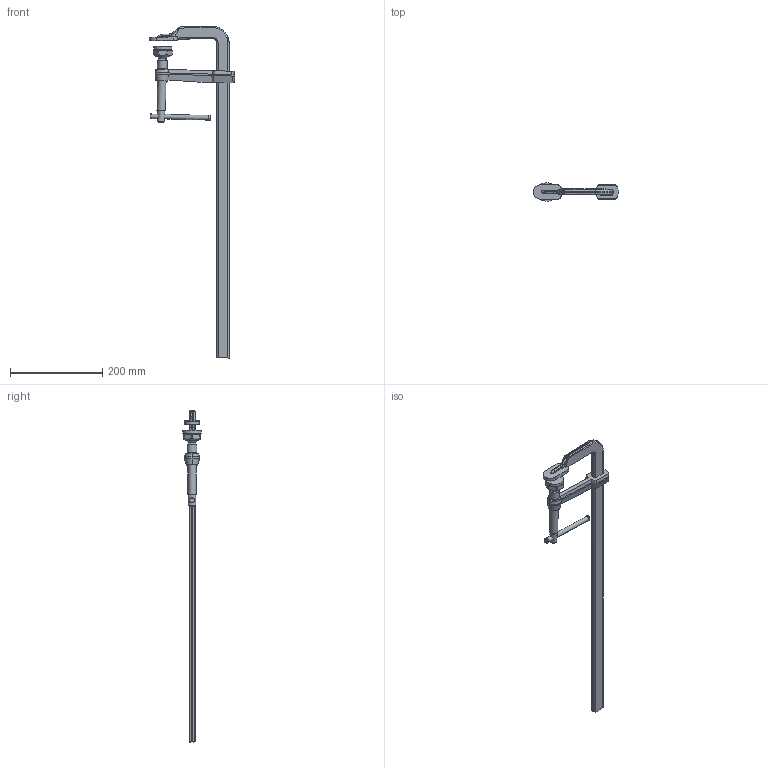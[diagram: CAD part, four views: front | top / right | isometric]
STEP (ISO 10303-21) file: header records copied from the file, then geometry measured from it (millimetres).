
FILE_DESCRIPTION( ('This file contains a STEP AP42 implementation' ,'as created by ZW3D STEP Interface translator.') ,'2;1' );
FILE_NAME( 'GSL60_SGL-24.stp' ,'18 3 7.155756', (''), ('ZWCAD Software Co.'), 'Version 1.0', 'ZW3D to STEP translator', '' );
FILE_SCHEMA( ('CONFIG_CONTROL_DESIGN') );
Length unit declared in the file: millimetre
Products named in the file (7): 0; GSL60_SGL-24; GSL60_Festbügel; GB Rohl_GK27x13; Spindel_SGL-M; Knebel 8x110 Gr.20; Druckplatte HLZ
Assembly tree (5 placements, depth 2):
  0
  GSL60_SGL-24
    GSL60_Festbügel
    GB Rohl_GK27x13
    Spindel_SGL-M
    Knebel 8x110 Gr.20
    Druckplatte HLZ
Bounding box: 185.04 x 39.96 x 720.99 mm (x, y, z)
Volume: 409393.5 mm3; surface area: 100029.6 mm2
Topology: 5 solids, 5 shells, 161 faces, 368 edges, 221 vertices
Faces by surface type: bspline 161
Entity records: 5669 total; most frequent: CARTESIAN_POINT 3207, ORIENTED_EDGE 736, EDGE_CURVE 368, B_SPLINE_CURVE_WITH_KNOTS 222, VERTEX_POINT 221, EDGE_LOOP 171, FACE_OUTER_BOUND 161, ADVANCED_FACE 161
